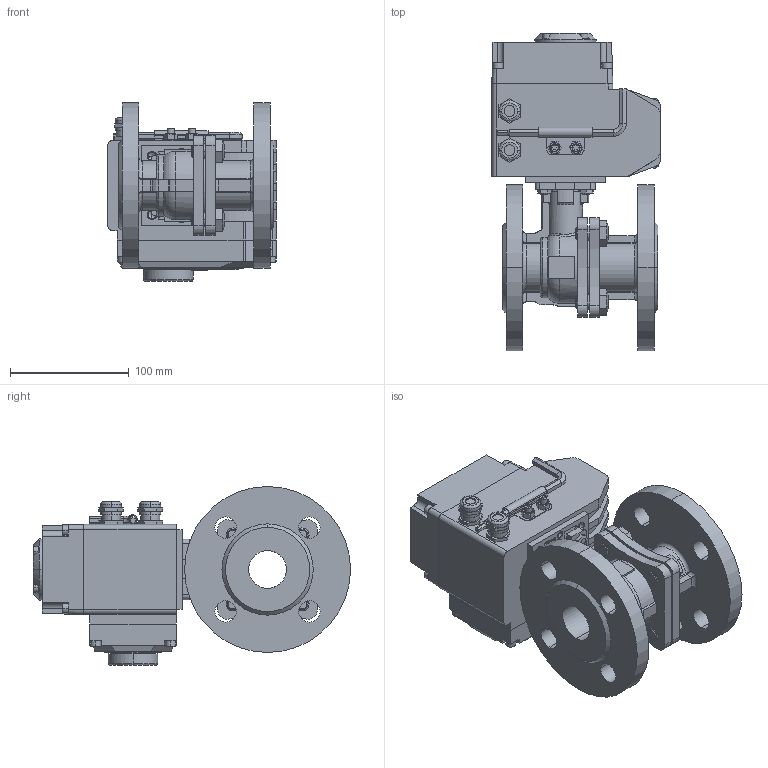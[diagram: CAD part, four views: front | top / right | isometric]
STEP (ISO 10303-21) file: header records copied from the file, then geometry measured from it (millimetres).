
FILE_DESCRIPTION((''),'2;1');
FILE_NAME('BV-22F_EAR_T_ASM','2025-03-03T',('USER'),(''),'PRO/ENGINEER BY PARAMETRIC TECHNOLOGY CORPORATION, 2011220','PRO/ENGINEER BY PARAMETRIC TECHNOLOGY CORPORATION, 2011220','');
FILE_SCHEMA(('CONFIG_CONTROL_DESIGN'));
Length unit declared in the file: millimetre
Products named in the file (15): KORPUS_KRAN_FL; B-7798-M12-20; SB_KRAN_FL_ASM; DET_1; V-11738-M5; V-11738-M4; DET_2; KREPLENIE; KLUCH; DET_3; G-5915-M6; ELECTROPRIVOD_ASM; ELECTROPRIVOD_WITH_DISPLAY_ASM; B-7798-M6-20; BV-22F_EAR_T_ASM
Assembly tree (31 placements, depth 4):
  BV-22F_EAR_T_ASM
    SB_KRAN_FL_ASM
      KORPUS_KRAN_FL
      B-7798-M12-20  x4
    ELECTROPRIVOD_WITH_DISPLAY_ASM
      ELECTROPRIVOD_ASM
        DET_1
        V-11738-M5  x8
        V-11738-M4  x4
        DET_2
        KREPLENIE
        KLUCH
        DET_3
        G-5915-M6  x2
    B-7798-M6-20  x4
Bounding box: 142 x 267.5 x 151 mm (x, y, z)
Volume: 1996920.5 mm3; surface area: 298502.6 mm2
Topology: 28 solids, 68 shells, 1415 faces, 3658 edges, 2389 vertices
Faces by surface type: plane 870, cylinder 404, cone 90, torus 35, bspline 14, extrusion 2
Entity records: 36228 total; most frequent: CARTESIAN_POINT 7515, DIRECTION 5940, ORIENTED_EDGE 5804, EDGE_CURVE 2950, VECTOR 2088, LINE 2086, VERTEX_POINT 1945, AXIS2_PLACEMENT_3D 1926
